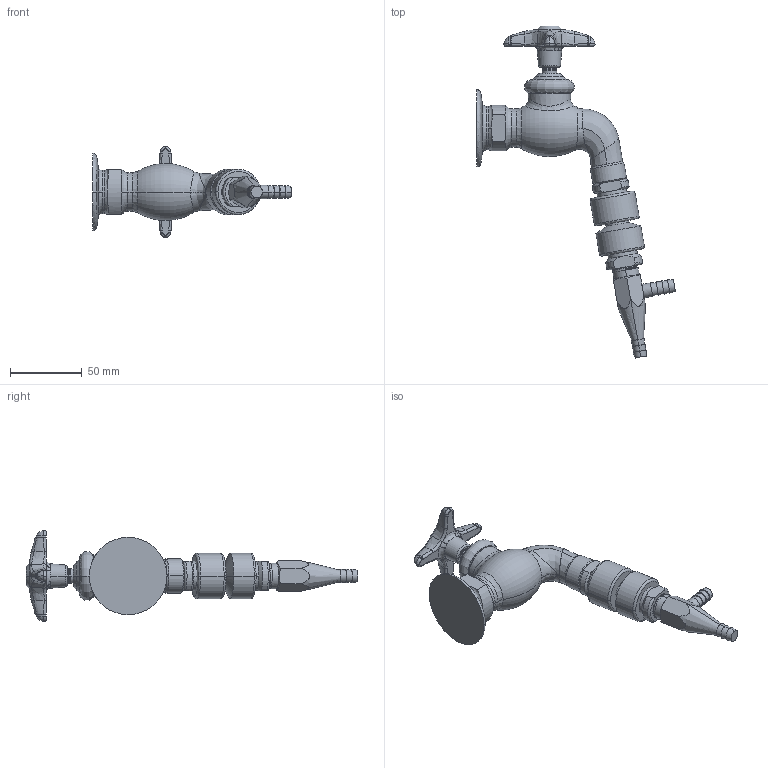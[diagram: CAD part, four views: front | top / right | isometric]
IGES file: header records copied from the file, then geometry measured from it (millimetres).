
Start section:  PTC IGES file: LWV3-C61.igs
Global section: file name: LWV3-C61.igs; native system: Creo Parametric by PTC Inc.; preprocessor: 2014500; author: usch_engrender; organization: Unknown; date: 20150910.122537; units: inch
Bounding box: 138.54 x 231.23 x 63.42 mm (x, y, z)
Volume: 171744.9 mm3; surface area: 33932.6 mm2
Topology: 1 solids, 3 shells, 328 faces, 730 edges, 425 vertices
Faces by surface type: bspline 198, revolution 130
